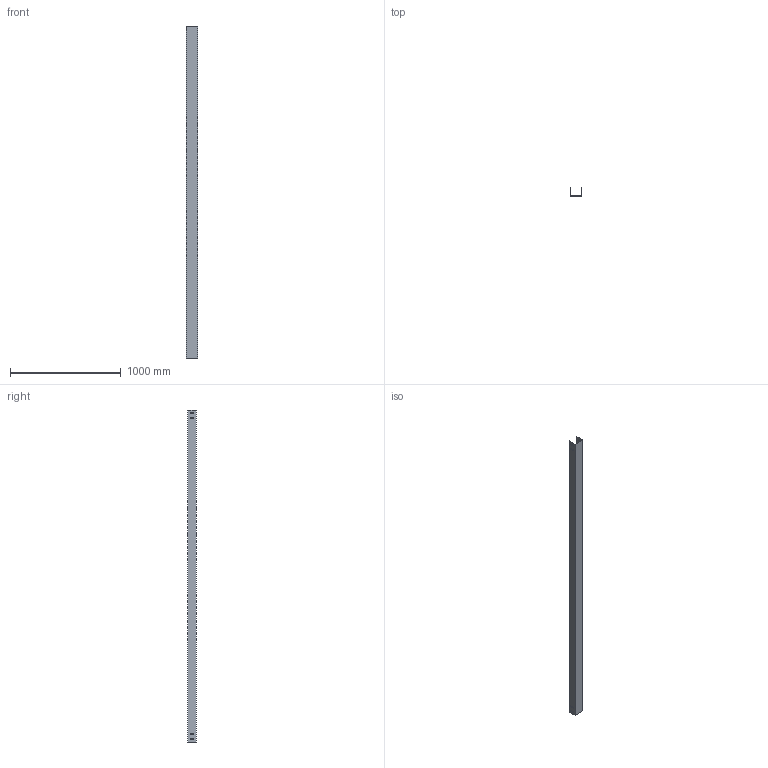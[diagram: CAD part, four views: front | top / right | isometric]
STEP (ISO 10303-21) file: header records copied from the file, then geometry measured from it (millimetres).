
FILE_DESCRIPTION (( 'STEP AP214' ), '1' );
FILE_NAME ('CC_107.step', '2025-07-16T09:03:51', ( '' ), ( '' ), 'SwSTEP 2.0', 'SolidWorks 2023', '' );
FILE_SCHEMA (( 'AUTOMOTIVE_DESIGN' ));
Length unit declared in the file: millimetre
Products named in the file (1): CC_107
Bounding box: 100 x 75 x 3000 mm (x, y, z)
Volume: 1109820 mm3; surface area: 1490317 mm2
Topology: 1 solids, 1 shells, 74 faces, 216 edges, 144 vertices
Faces by surface type: plane 74
Entity records: 2487 total; most frequent: CARTESIAN_POINT 435, ORIENTED_EDGE 432, DIRECTION 366, VECTOR 216, EDGE_CURVE 216, LINE 216, VERTEX_POINT 144, EDGE_LOOP 106
